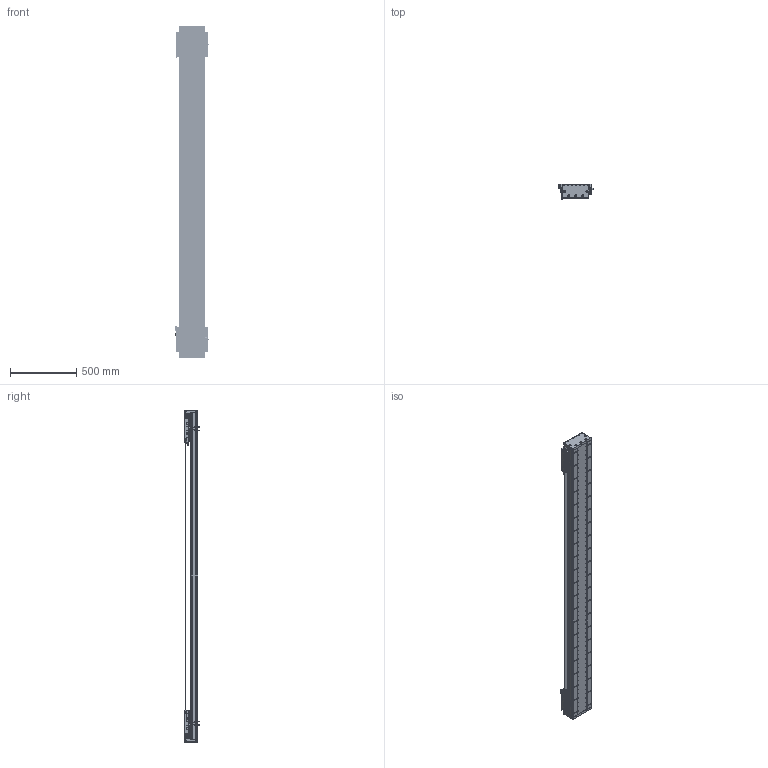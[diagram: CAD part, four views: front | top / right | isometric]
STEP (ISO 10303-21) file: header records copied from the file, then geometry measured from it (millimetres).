
FILE_DESCRIPTION (( 'STEP AP203' ), '1' );
FILE_NAME ('DA-C195-2-C2-T2000-C010-0.2 眻盄萇儂.STEP', '2025-08-14T02:08:39', ( '' ), ( '' ), 'SwSTEP 2.0', 'SolidWorks 2019', '' );
FILE_SCHEMA (( 'CONFIG_CONTROL_DESIGN' ));
Length unit declared in the file: millimetre
Products named in the file (19): DA195詩湍裔啣-1; LMT黍杅芛-1; DA-C195-GD-DB-H-00 傷啣-1; PM-Y65嫖萇羲壽郪璃-1; IU-CU195-L 菁釱絳寢-1; 葩璃 DA95-GT-T-00-1; DA95-HXJ-00 遣喳砎蝶-1; DKW-KGZ-ZJ-00 中间光电开关支架-1; DA195詩湍菜輸-1; DA165-GYP-00 光电感应片(默认)-1; MS200 棠掑喜S315-T1740-1; DA195詩湍郪璃-1; IU-CU195-L-00 菁釱(L2460); DA-C195-2-C2-T2000-C010-0.2 眻盄萇儂; CU195-C2賑輸-俋楷-1; DKW-GYP-ZJ-00 笢潔嫖萇覜茼え-1; PM-T45ㄗ侂狟ㄘ-1; DKW168-HXJ-ZJ-00 笢潔滅袉砎蝶-1; DA195詩湍嶺輸-1
Assembly tree (37 placements, depth 3):
  DA-C195-2-C2-T2000-C010-0.2 眻盄萇儂
    DA195詩湍郪璃-1
      DA195詩湍菜輸-1  x2
      DA195詩湍裔啣-1
      DA195詩湍嶺輸-1  x2
      DA95-HXJ-00 遣喳砎蝶-1  x8
      DA-C195-GD-DB-H-00 傷啣-1  x2
    IU-CU195-L 菁釱絳寢-1
      IU-CU195-L-00 菁釱(L2460)
      葩璃 DA95-GT-T-00-1  x4
    LMT黍杅芛-1  x2
    MS200 棠掑喜S315-T1740-1
    PM-T45ㄗ侂狟ㄘ-1  x4
    DA165-GYP-00 光电感应片(默认)-1  x2
    PM-Y65嫖萇羲壽郪璃-1
    DKW168-HXJ-ZJ-00 笢潔滅袉砎蝶-1
    DKW-GYP-ZJ-00 笢潔嫖萇覜茼え-1
    DKW-KGZ-ZJ-00 中间光电开关支架-1
    CU195-C2賑輸-俋楷-1  x2
Bounding box: 258.2 x 115.45 x 2500 mm (x, y, z)
Volume: 15653469.2 mm3; surface area: 4533605.7 mm2
Topology: 114 solids, 242 shells, 6967 faces, 18431 edges, 11457 vertices
Faces by surface type: cylinder 3260, plane 2623, cone 916, torus 88, sphere 72, bspline 8
Entity records: 148917 total; most frequent: CARTESIAN_POINT 39655, ORIENTED_EDGE 22694, DIRECTION 21834, EDGE_CURVE 11347, AXIS2_PLACEMENT_3D 8037, VERTEX_POINT 7344, VECTOR 5760, LINE 5760
